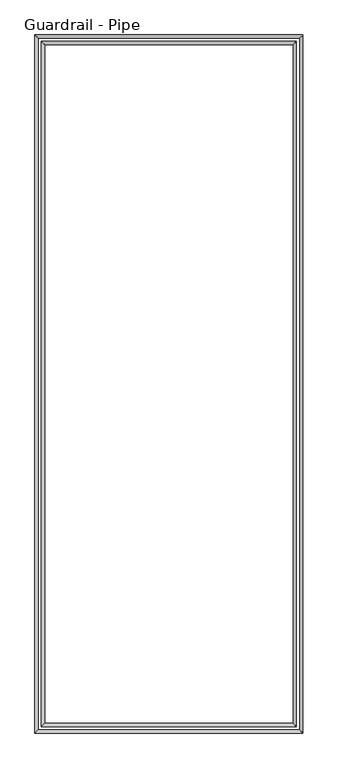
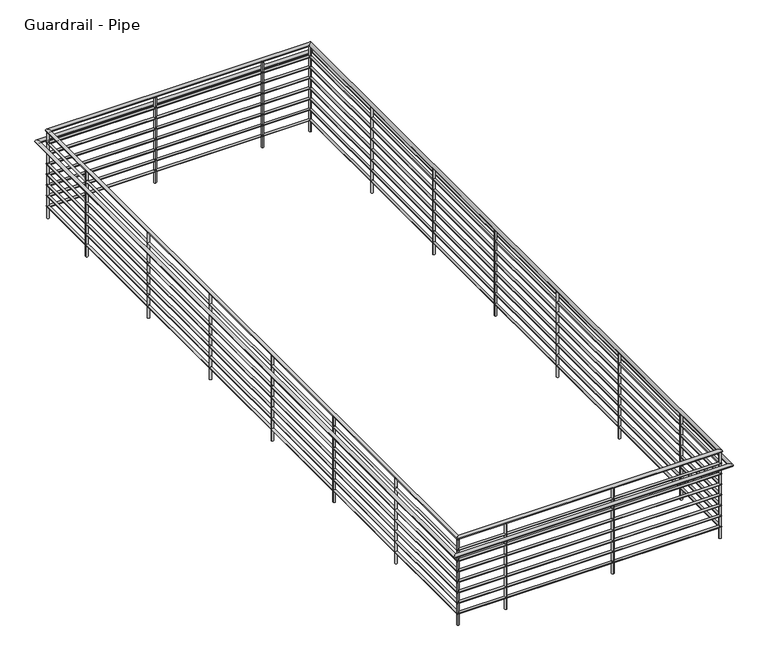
"""IFC4 building model written with IfcOpenShell, lengths in millimetres: railing geometry, Guardrail - Pipe."""

from ifc_helpers import new_model, si_unit, point, frame, frame_2d, origin, place, context, project, spatial, circle_curve, ellipse_curve, trimmed, segment, composite_curve, outline, extrude, source, transform, mapped, element, save
from ifc_brep_helpers import cylinder_surface, advanced_brep


def guardrail_pipe_a18c1e3b(model_context):
    return source(origin(), model_context, "Body", "SolidModel", [
        advanced_brep(
        [(10994.5813551, 40890.75, 8362.95), (10956.4813551, 40928.85, 8362.95), (13977.3813552, 40928.85, 8362.95), (13939.2813552, 40890.75, 8362.95), (13977.3813552, 32813.55, 8362.95), (13939.2813552, 32851.65, 8362.95), (10956.4813551, 32813.55, 8362.95), (10994.5813551, 32851.65, 8362.95)],
        [
            (0, 1, ellipse_curve(frame((10975.5313551, 40909.8, 8362.95), z_axis=(0.7071067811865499, 0.7071067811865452, 0.0), x_axis=(-0.707106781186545, 0.70710678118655, 0.0)), 26.9407684, 19.05)),
            (1, 2),
            (2, 3, ellipse_curve(frame((13958.3313552, 40909.8, 8362.95), z_axis=(-0.7071067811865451, 0.7071067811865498, 0.0), x_axis=(-0.70710678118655, -0.707106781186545, 0.0)), 26.9407684, 19.05)),
            (3, 0),
            (1, 0, ellipse_curve(frame((10975.5313551, 40909.8, 8362.95), z_axis=(0.7071067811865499, 0.7071067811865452, 0.0), x_axis=(-0.707106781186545, 0.70710678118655, 0.0)), 26.9407684, 19.05)),
            (3, 2, ellipse_curve(frame((13958.3313552, 40909.8, 8362.95), z_axis=(-0.7071067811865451, 0.7071067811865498, 0.0), x_axis=(-0.70710678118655, -0.707106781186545, 0.0)), 26.9407684, 19.05)),
            (2, 4),
            (4, 5, ellipse_curve(frame((13958.3313552, 32832.6, 8362.95), z_axis=(0.7071067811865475, 0.7071067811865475, 0.0), x_axis=(-0.7071067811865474, 0.7071067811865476, 0.0)), 26.9407684, 19.05)),
            (5, 3),
            (5, 4, ellipse_curve(frame((13958.3313552, 32832.6, 8362.95), z_axis=(0.7071067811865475, 0.7071067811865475, 0.0), x_axis=(-0.7071067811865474, 0.7071067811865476, 0.0)), 26.9407684, 19.05)),
            (4, 6),
            (6, 7, ellipse_curve(frame((10975.5313551, 32832.6, 8362.95), z_axis=(0.7071067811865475, -0.7071067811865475, 0.0), x_axis=(0.7071067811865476, 0.7071067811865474, 0.0)), 26.9407684, 19.05)),
            (7, 5),
            (7, 6, ellipse_curve(frame((10975.5313551, 32832.6, 8362.95), z_axis=(0.7071067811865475, -0.7071067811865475, 0.0), x_axis=(0.7071067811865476, 0.7071067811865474, 0.0)), 26.9407684, 19.05)),
            (6, 1),
            (0, 7),
        ],
        [
            cylinder_surface(frame((10975.5313551, 40909.8, 8362.95), z_axis=(-1.0, 0.0, 0.0), x_axis=(0.0, -1.0, 0.0)), 19.05),
            cylinder_surface(frame((13958.3313552, 40909.8, 8362.95), z_axis=(0.0, 1.0, 0.0), x_axis=(-1.0, 0.0, 0.0)), 19.05),
            cylinder_surface(frame((13958.3313552, 32832.6, 8362.95), z_axis=(1.0, 0.0, 0.0), x_axis=(0.0, 1.0, 0.0)), 19.05),
            cylinder_surface(frame((10975.5313551, 32832.6, 8362.95), z_axis=(0.0, -1.0, 0.0), x_axis=(1.0, 0.0, 0.0)), 19.05),
        ],
        [
            (0, [[1, 2, 3, 4]]),
            (0, [[5, -4, 6, -2]]),
            (1, [[-3, 7, 8, 9]]),
            (1, [[-6, -9, 10, -7]]),
            (2, [[-8, 11, 12, 13]]),
            (2, [[-10, -13, 14, -11]]),
            (3, [[-12, 15, -1, 16]]),
            (3, [[-14, -16, -5, -15]]),
        ],
    ),
        advanced_brep(
        [(10988.2313551, 40897.1, 8216.9), (10962.8313551, 40922.5, 8216.9), (13971.0313552, 40922.5, 8216.9), (13945.6313552, 40897.1, 8216.9), (13971.0313552, 32819.9, 8216.9), (13945.6313552, 32845.3, 8216.9), (10962.8313551, 32819.9, 8216.9), (10988.2313551, 32845.3, 8216.9)],
        [
            (0, 1, ellipse_curve(frame((10975.5313551, 40909.8, 8216.9), z_axis=(0.7071067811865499, 0.7071067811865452, 0.0), x_axis=(-0.707106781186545, 0.70710678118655, 0.0)), 17.9605122, 12.7)),
            (1, 2),
            (2, 3, ellipse_curve(frame((13958.3313552, 40909.8, 8216.9), z_axis=(-0.7071067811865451, 0.7071067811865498, 0.0), x_axis=(-0.70710678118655, -0.707106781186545, 0.0)), 17.9605122, 12.7)),
            (3, 0),
            (1, 0, ellipse_curve(frame((10975.5313551, 40909.8, 8216.9), z_axis=(0.7071067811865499, 0.7071067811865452, 0.0), x_axis=(-0.707106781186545, 0.70710678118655, 0.0)), 17.9605122, 12.7)),
            (3, 2, ellipse_curve(frame((13958.3313552, 40909.8, 8216.9), z_axis=(-0.7071067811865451, 0.7071067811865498, 0.0), x_axis=(-0.70710678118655, -0.707106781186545, 0.0)), 17.9605122, 12.7)),
            (2, 4),
            (4, 5, ellipse_curve(frame((13958.3313552, 32832.6, 8216.9), z_axis=(0.7071067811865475, 0.7071067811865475, 0.0), x_axis=(-0.7071067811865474, 0.7071067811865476, 0.0)), 17.9605122, 12.7)),
            (5, 3),
            (5, 4, ellipse_curve(frame((13958.3313552, 32832.6, 8216.9), z_axis=(0.7071067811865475, 0.7071067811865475, 0.0), x_axis=(-0.7071067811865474, 0.7071067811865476, 0.0)), 17.9605122, 12.7)),
            (4, 6),
            (6, 7, ellipse_curve(frame((10975.5313551, 32832.6, 8216.9), z_axis=(0.7071067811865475, -0.7071067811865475, 0.0), x_axis=(0.7071067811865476, 0.7071067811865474, 0.0)), 17.9605122, 12.7)),
            (7, 5),
            (7, 6, ellipse_curve(frame((10975.5313551, 32832.6, 8216.9), z_axis=(0.7071067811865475, -0.7071067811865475, 0.0), x_axis=(0.7071067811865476, 0.7071067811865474, 0.0)), 17.9605122, 12.7)),
            (6, 1),
            (0, 7),
        ],
        [
            cylinder_surface(frame((10975.5313551, 40909.8, 8216.9), z_axis=(-1.0, 0.0, 0.0), x_axis=(0.0, -1.0, 0.0)), 12.7),
            cylinder_surface(frame((13958.3313552, 40909.8, 8216.9), z_axis=(0.0, 1.0, 0.0), x_axis=(-1.0, 0.0, 0.0)), 12.7),
            cylinder_surface(frame((13958.3313552, 32832.6, 8216.9), z_axis=(1.0, 0.0, 0.0), x_axis=(0.0, 1.0, 0.0)), 12.7),
            cylinder_surface(frame((10975.5313551, 32832.6, 8216.9), z_axis=(0.0, -1.0, 0.0), x_axis=(1.0, 0.0, 0.0)), 12.7),
        ],
        [
            (0, [[1, 2, 3, 4]]),
            (0, [[5, -4, 6, -2]]),
            (1, [[-3, 7, 8, 9]]),
            (1, [[-6, -9, 10, -7]]),
            (2, [[-8, 11, 12, 13]]),
            (2, [[-10, -13, 14, -11]]),
            (3, [[-12, 15, -1, 16]]),
            (3, [[-14, -16, -5, -15]]),
        ],
    ),
        advanced_brep(
        [(10918.3813551, 40966.95, 8210.55), (10880.2813551, 41005.05, 8210.55), (14053.5813552, 41005.05, 8210.55), (14015.4813552, 40966.95, 8210.55), (14053.5813552, 32737.35, 8210.55), (14015.4813552, 32775.45, 8210.55), (10880.2813551, 32737.35, 8210.55), (10918.3813551, 32775.45, 8210.55)],
        [
            (0, 1, ellipse_curve(frame((10899.3313551, 40986.0, 8210.55), z_axis=(0.7071067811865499, 0.7071067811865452, 0.0), x_axis=(-0.707106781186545, 0.70710678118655, 0.0)), 26.9407684, 19.05)),
            (1, 2),
            (2, 3, ellipse_curve(frame((14034.5313552, 40986.0, 8210.55), z_axis=(-0.7071067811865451, 0.7071067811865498, 0.0), x_axis=(-0.70710678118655, -0.707106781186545, 0.0)), 26.9407684, 19.05)),
            (3, 0),
            (1, 0, ellipse_curve(frame((10899.3313551, 40986.0, 8210.55), z_axis=(0.7071067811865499, 0.7071067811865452, 0.0), x_axis=(-0.707106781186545, 0.70710678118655, 0.0)), 26.9407684, 19.05)),
            (3, 2, ellipse_curve(frame((14034.5313552, 40986.0, 8210.55), z_axis=(-0.7071067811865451, 0.7071067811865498, 0.0), x_axis=(-0.70710678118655, -0.707106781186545, 0.0)), 26.9407684, 19.05)),
            (2, 4),
            (4, 5, ellipse_curve(frame((14034.5313552, 32756.4, 8210.55), z_axis=(0.7071067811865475, 0.7071067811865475, 0.0), x_axis=(-0.7071067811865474, 0.7071067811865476, 0.0)), 26.9407684, 19.05)),
            (5, 3),
            (5, 4, ellipse_curve(frame((14034.5313552, 32756.4, 8210.55), z_axis=(0.7071067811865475, 0.7071067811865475, 0.0), x_axis=(-0.7071067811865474, 0.7071067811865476, 0.0)), 26.9407684, 19.05)),
            (4, 6),
            (6, 7, ellipse_curve(frame((10899.3313551, 32756.4, 8210.55), z_axis=(0.7071067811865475, -0.7071067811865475, 0.0), x_axis=(0.7071067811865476, 0.7071067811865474, 0.0)), 26.9407684, 19.05)),
            (7, 5),
            (7, 6, ellipse_curve(frame((10899.3313551, 32756.4, 8210.55), z_axis=(0.7071067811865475, -0.7071067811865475, 0.0), x_axis=(0.7071067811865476, 0.7071067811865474, 0.0)), 26.9407684, 19.05)),
            (6, 1),
            (0, 7),
        ],
        [
            cylinder_surface(frame((10899.3313551, 40986.0, 8210.55), z_axis=(-1.0, 0.0, 0.0), x_axis=(0.0, -1.0, 0.0)), 19.05),
            cylinder_surface(frame((14034.5313552, 40986.0, 8210.55), z_axis=(0.0, 1.0, 0.0), x_axis=(-1.0, 0.0, 0.0)), 19.05),
            cylinder_surface(frame((14034.5313552, 32756.4, 8210.55), z_axis=(1.0, 0.0, 0.0), x_axis=(0.0, 1.0, 0.0)), 19.05),
            cylinder_surface(frame((10899.3313551, 32756.4, 8210.55), z_axis=(0.0, -1.0, 0.0), x_axis=(1.0, 0.0, 0.0)), 19.05),
        ],
        [
            (0, [[1, 2, 3, 4]]),
            (0, [[5, -4, 6, -2]]),
            (1, [[-3, 7, 8, 9]]),
            (1, [[-6, -9, 10, -7]]),
            (2, [[-8, 11, 12, 13]]),
            (2, [[-10, -13, 14, -11]]),
            (3, [[-12, 15, -1, 16]]),
            (3, [[-14, -16, -5, -15]]),
        ],
    ),
        advanced_brep(
        [(10988.2313551, 40897.1, 8089.9), (10962.8313551, 40922.5, 8089.9), (13971.0313552, 40922.5, 8089.9), (13945.6313552, 40897.1, 8089.9), (13971.0313552, 32819.9, 8089.9), (13945.6313552, 32845.3, 8089.9), (10962.8313551, 32819.9, 8089.9), (10988.2313551, 32845.3, 8089.9)],
        [
            (0, 1, ellipse_curve(frame((10975.5313551, 40909.8, 8089.9), z_axis=(0.7071067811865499, 0.7071067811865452, 0.0), x_axis=(-0.707106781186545, 0.70710678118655, 0.0)), 17.9605122, 12.7)),
            (1, 2),
            (2, 3, ellipse_curve(frame((13958.3313552, 40909.8, 8089.9), z_axis=(-0.7071067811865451, 0.7071067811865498, 0.0), x_axis=(-0.70710678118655, -0.707106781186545, 0.0)), 17.9605122, 12.7)),
            (3, 0),
            (1, 0, ellipse_curve(frame((10975.5313551, 40909.8, 8089.9), z_axis=(0.7071067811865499, 0.7071067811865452, 0.0), x_axis=(-0.707106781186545, 0.70710678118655, 0.0)), 17.9605122, 12.7)),
            (3, 2, ellipse_curve(frame((13958.3313552, 40909.8, 8089.9), z_axis=(-0.7071067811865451, 0.7071067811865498, 0.0), x_axis=(-0.70710678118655, -0.707106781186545, 0.0)), 17.9605122, 12.7)),
            (2, 4),
            (4, 5, ellipse_curve(frame((13958.3313552, 32832.6, 8089.9), z_axis=(0.7071067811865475, 0.7071067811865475, 0.0), x_axis=(-0.7071067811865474, 0.7071067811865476, 0.0)), 17.9605122, 12.7)),
            (5, 3),
            (5, 4, ellipse_curve(frame((13958.3313552, 32832.6, 8089.9), z_axis=(0.7071067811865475, 0.7071067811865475, 0.0), x_axis=(-0.7071067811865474, 0.7071067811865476, 0.0)), 17.9605122, 12.7)),
            (4, 6),
            (6, 7, ellipse_curve(frame((10975.5313551, 32832.6, 8089.9), z_axis=(0.7071067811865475, -0.7071067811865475, 0.0), x_axis=(0.7071067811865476, 0.7071067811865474, 0.0)), 17.9605122, 12.7)),
            (7, 5),
            (7, 6, ellipse_curve(frame((10975.5313551, 32832.6, 8089.9), z_axis=(0.7071067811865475, -0.7071067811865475, 0.0), x_axis=(0.7071067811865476, 0.7071067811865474, 0.0)), 17.9605122, 12.7)),
            (6, 1),
            (0, 7),
        ],
        [
            cylinder_surface(frame((10975.5313551, 40909.8, 8089.9), z_axis=(-1.0, 0.0, 0.0), x_axis=(0.0, -1.0, 0.0)), 12.7),
            cylinder_surface(frame((13958.3313552, 40909.8, 8089.9), z_axis=(0.0, 1.0, 0.0), x_axis=(-1.0, 0.0, 0.0)), 12.7),
            cylinder_surface(frame((13958.3313552, 32832.6, 8089.9), z_axis=(1.0, 0.0, 0.0), x_axis=(0.0, 1.0, 0.0)), 12.7),
            cylinder_surface(frame((10975.5313551, 32832.6, 8089.9), z_axis=(0.0, -1.0, 0.0), x_axis=(1.0, 0.0, 0.0)), 12.7),
        ],
        [
            (0, [[1, 2, 3, 4]]),
            (0, [[5, -4, 6, -2]]),
            (1, [[-3, 7, 8, 9]]),
            (1, [[-6, -9, 10, -7]]),
            (2, [[-8, 11, 12, 13]]),
            (2, [[-10, -13, 14, -11]]),
            (3, [[-12, 15, -1, 16]]),
            (3, [[-14, -16, -5, -15]]),
        ],
    ),
        advanced_brep(
        [(10988.2313551, 40897.1, 7962.9), (10962.8313551, 40922.5, 7962.9), (13971.0313552, 40922.5, 7962.9), (13945.6313552, 40897.1, 7962.9), (13971.0313552, 32819.9, 7962.9), (13945.6313552, 32845.3, 7962.9), (10962.8313551, 32819.9, 7962.9), (10988.2313551, 32845.3, 7962.9)],
        [
            (0, 1, ellipse_curve(frame((10975.5313551, 40909.8, 7962.9), z_axis=(0.7071067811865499, 0.7071067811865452, 0.0), x_axis=(-0.707106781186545, 0.70710678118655, 0.0)), 17.9605122, 12.7)),
            (1, 2),
            (2, 3, ellipse_curve(frame((13958.3313552, 40909.8, 7962.9), z_axis=(-0.7071067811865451, 0.7071067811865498, 0.0), x_axis=(-0.70710678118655, -0.707106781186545, 0.0)), 17.9605122, 12.7)),
            (3, 0),
            (1, 0, ellipse_curve(frame((10975.5313551, 40909.8, 7962.9), z_axis=(0.7071067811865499, 0.7071067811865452, 0.0), x_axis=(-0.707106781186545, 0.70710678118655, 0.0)), 17.9605122, 12.7)),
            (3, 2, ellipse_curve(frame((13958.3313552, 40909.8, 7962.9), z_axis=(-0.7071067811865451, 0.7071067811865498, 0.0), x_axis=(-0.70710678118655, -0.707106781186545, 0.0)), 17.9605122, 12.7)),
            (2, 4),
            (4, 5, ellipse_curve(frame((13958.3313552, 32832.6, 7962.9), z_axis=(0.7071067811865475, 0.7071067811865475, 0.0), x_axis=(-0.7071067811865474, 0.7071067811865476, 0.0)), 17.9605122, 12.7)),
            (5, 3),
            (5, 4, ellipse_curve(frame((13958.3313552, 32832.6, 7962.9), z_axis=(0.7071067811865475, 0.7071067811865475, 0.0), x_axis=(-0.7071067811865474, 0.7071067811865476, 0.0)), 17.9605122, 12.7)),
            (4, 6),
            (6, 7, ellipse_curve(frame((10975.5313551, 32832.6, 7962.9), z_axis=(0.7071067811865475, -0.7071067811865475, 0.0), x_axis=(0.7071067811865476, 0.7071067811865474, 0.0)), 17.9605122, 12.7)),
            (7, 5),
            (7, 6, ellipse_curve(frame((10975.5313551, 32832.6, 7962.9), z_axis=(0.7071067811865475, -0.7071067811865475, 0.0), x_axis=(0.7071067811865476, 0.7071067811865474, 0.0)), 17.9605122, 12.7)),
            (6, 1),
            (0, 7),
        ],
        [
            cylinder_surface(frame((10975.5313551, 40909.8, 7962.9), z_axis=(-1.0, 0.0, 0.0), x_axis=(0.0, -1.0, 0.0)), 12.7),
            cylinder_surface(frame((13958.3313552, 40909.8, 7962.9), z_axis=(0.0, 1.0, 0.0), x_axis=(-1.0, 0.0, 0.0)), 12.7),
            cylinder_surface(frame((13958.3313552, 32832.6, 7962.9), z_axis=(1.0, 0.0, 0.0), x_axis=(0.0, 1.0, 0.0)), 12.7),
            cylinder_surface(frame((10975.5313551, 32832.6, 7962.9), z_axis=(0.0, -1.0, 0.0), x_axis=(1.0, 0.0, 0.0)), 12.7),
        ],
        [
            (0, [[1, 2, 3, 4]]),
            (0, [[5, -4, 6, -2]]),
            (1, [[-3, 7, 8, 9]]),
            (1, [[-6, -9, 10, -7]]),
            (2, [[-8, 11, 12, 13]]),
            (2, [[-10, -13, 14, -11]]),
            (3, [[-12, 15, -1, 16]]),
            (3, [[-14, -16, -5, -15]]),
        ],
    ),
        advanced_brep(
        [(10988.2313551, 40897.1, 7835.9), (10962.8313551, 40922.5, 7835.9), (13971.0313552, 40922.5, 7835.9), (13945.6313552, 40897.1, 7835.9), (13971.0313552, 32819.9, 7835.9), (13945.6313552, 32845.3, 7835.9), (10962.8313551, 32819.9, 7835.9), (10988.2313551, 32845.3, 7835.9)],
        [
            (0, 1, ellipse_curve(frame((10975.5313551, 40909.8, 7835.9), z_axis=(0.7071067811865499, 0.7071067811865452, 0.0), x_axis=(-0.707106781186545, 0.70710678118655, 0.0)), 17.9605122, 12.7)),
            (1, 2),
            (2, 3, ellipse_curve(frame((13958.3313552, 40909.8, 7835.9), z_axis=(-0.7071067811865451, 0.7071067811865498, 0.0), x_axis=(-0.70710678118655, -0.707106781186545, 0.0)), 17.9605122, 12.7)),
            (3, 0),
            (1, 0, ellipse_curve(frame((10975.5313551, 40909.8, 7835.9), z_axis=(0.7071067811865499, 0.7071067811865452, 0.0), x_axis=(-0.707106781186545, 0.70710678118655, 0.0)), 17.9605122, 12.7)),
            (3, 2, ellipse_curve(frame((13958.3313552, 40909.8, 7835.9), z_axis=(-0.7071067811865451, 0.7071067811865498, 0.0), x_axis=(-0.70710678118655, -0.707106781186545, 0.0)), 17.9605122, 12.7)),
            (2, 4),
            (4, 5, ellipse_curve(frame((13958.3313552, 32832.6, 7835.9), z_axis=(0.7071067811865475, 0.7071067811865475, 0.0), x_axis=(-0.7071067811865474, 0.7071067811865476, 0.0)), 17.9605122, 12.7)),
            (5, 3),
            (5, 4, ellipse_curve(frame((13958.3313552, 32832.6, 7835.9), z_axis=(0.7071067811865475, 0.7071067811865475, 0.0), x_axis=(-0.7071067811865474, 0.7071067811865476, 0.0)), 17.9605122, 12.7)),
            (4, 6),
            (6, 7, ellipse_curve(frame((10975.5313551, 32832.6, 7835.9), z_axis=(0.7071067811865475, -0.7071067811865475, 0.0), x_axis=(0.7071067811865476, 0.7071067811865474, 0.0)), 17.9605122, 12.7)),
            (7, 5),
            (7, 6, ellipse_curve(frame((10975.5313551, 32832.6, 7835.9), z_axis=(0.7071067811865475, -0.7071067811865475, 0.0), x_axis=(0.7071067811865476, 0.7071067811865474, 0.0)), 17.9605122, 12.7)),
            (6, 1),
            (0, 7),
        ],
        [
            cylinder_surface(frame((10975.5313551, 40909.8, 7835.9), z_axis=(-1.0, 0.0, 0.0), x_axis=(0.0, -1.0, 0.0)), 12.7),
            cylinder_surface(frame((13958.3313552, 40909.8, 7835.9), z_axis=(0.0, 1.0, 0.0), x_axis=(-1.0, 0.0, 0.0)), 12.7),
            cylinder_surface(frame((13958.3313552, 32832.6, 7835.9), z_axis=(1.0, 0.0, 0.0), x_axis=(0.0, 1.0, 0.0)), 12.7),
            cylinder_surface(frame((10975.5313551, 32832.6, 7835.9), z_axis=(0.0, -1.0, 0.0), x_axis=(1.0, 0.0, 0.0)), 12.7),
        ],
        [
            (0, [[1, 2, 3, 4]]),
            (0, [[5, -4, 6, -2]]),
            (1, [[-3, 7, 8, 9]]),
            (1, [[-6, -9, 10, -7]]),
            (2, [[-8, 11, 12, 13]]),
            (2, [[-10, -13, 14, -11]]),
            (3, [[-12, 15, -1, 16]]),
            (3, [[-14, -16, -5, -15]]),
        ],
    ),
        advanced_brep(
        [(10988.2313551, 40897.1, 7708.9), (10962.8313551, 40922.5, 7708.9), (13971.0313552, 40922.5, 7708.9), (13945.6313552, 40897.1, 7708.9), (13971.0313552, 32819.9, 7708.9), (13945.6313552, 32845.3, 7708.9), (10962.8313551, 32819.9, 7708.9), (10988.2313551, 32845.3, 7708.9)],
        [
            (0, 1, ellipse_curve(frame((10975.5313551, 40909.8, 7708.9), z_axis=(0.7071067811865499, 0.7071067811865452, 0.0), x_axis=(-0.707106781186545, 0.70710678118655, 0.0)), 17.9605122, 12.7)),
            (1, 2),
            (2, 3, ellipse_curve(frame((13958.3313552, 40909.8, 7708.9), z_axis=(-0.7071067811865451, 0.7071067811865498, 0.0), x_axis=(-0.70710678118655, -0.707106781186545, 0.0)), 17.9605122, 12.7)),
            (3, 0),
            (1, 0, ellipse_curve(frame((10975.5313551, 40909.8, 7708.9), z_axis=(0.7071067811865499, 0.7071067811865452, 0.0), x_axis=(-0.707106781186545, 0.70710678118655, 0.0)), 17.9605122, 12.7)),
            (3, 2, ellipse_curve(frame((13958.3313552, 40909.8, 7708.9), z_axis=(-0.7071067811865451, 0.7071067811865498, 0.0), x_axis=(-0.70710678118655, -0.707106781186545, 0.0)), 17.9605122, 12.7)),
            (2, 4),
            (4, 5, ellipse_curve(frame((13958.3313552, 32832.6, 7708.9), z_axis=(0.7071067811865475, 0.7071067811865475, 0.0), x_axis=(-0.7071067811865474, 0.7071067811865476, 0.0)), 17.9605122, 12.7)),
            (5, 3),
            (5, 4, ellipse_curve(frame((13958.3313552, 32832.6, 7708.9), z_axis=(0.7071067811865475, 0.7071067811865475, 0.0), x_axis=(-0.7071067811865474, 0.7071067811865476, 0.0)), 17.9605122, 12.7)),
            (4, 6),
            (6, 7, ellipse_curve(frame((10975.5313551, 32832.6, 7708.9), z_axis=(0.7071067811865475, -0.7071067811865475, 0.0), x_axis=(0.7071067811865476, 0.7071067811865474, 0.0)), 17.9605122, 12.7)),
            (7, 5),
            (7, 6, ellipse_curve(frame((10975.5313551, 32832.6, 7708.9), z_axis=(0.7071067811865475, -0.7071067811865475, 0.0), x_axis=(0.7071067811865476, 0.7071067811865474, 0.0)), 17.9605122, 12.7)),
            (6, 1),
            (0, 7),
        ],
        [
            cylinder_surface(frame((10975.5313551, 40909.8, 7708.9), z_axis=(-1.0, 0.0, 0.0), x_axis=(0.0, -1.0, 0.0)), 12.7),
            cylinder_surface(frame((13958.3313552, 40909.8, 7708.9), z_axis=(0.0, 1.0, 0.0), x_axis=(-1.0, 0.0, 0.0)), 12.7),
            cylinder_surface(frame((13958.3313552, 32832.6, 7708.9), z_axis=(1.0, 0.0, 0.0), x_axis=(0.0, 1.0, 0.0)), 12.7),
            cylinder_surface(frame((10975.5313551, 32832.6, 7708.9), z_axis=(0.0, -1.0, 0.0), x_axis=(1.0, 0.0, 0.0)), 12.7),
        ],
        [
            (0, [[1, 2, 3, 4]]),
            (0, [[5, -4, 6, -2]]),
            (1, [[-3, 7, 8, 9]]),
            (1, [[-6, -9, 10, -7]]),
            (2, [[-8, 11, 12, 13]]),
            (2, [[-10, -13, 14, -11]]),
            (3, [[-12, 15, -1, 16]]),
            (3, [[-14, -16, -5, -15]]),
        ],
    ),
        advanced_brep(
        [(10988.2313551, 40897.1, 7581.9), (10962.8313551, 40922.5, 7581.9), (13971.0313552, 40922.5, 7581.9), (13945.6313552, 40897.1, 7581.9), (13971.0313552, 32819.9, 7581.9), (13945.6313552, 32845.3, 7581.9), (10962.8313551, 32819.9, 7581.9), (10988.2313551, 32845.3, 7581.9)],
        [
            (0, 1, ellipse_curve(frame((10975.5313551, 40909.8, 7581.9), z_axis=(0.7071067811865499, 0.7071067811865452, 0.0), x_axis=(-0.707106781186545, 0.70710678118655, 0.0)), 17.9605122, 12.7)),
            (1, 2),
            (2, 3, ellipse_curve(frame((13958.3313552, 40909.8, 7581.9), z_axis=(-0.7071067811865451, 0.7071067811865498, 0.0), x_axis=(-0.70710678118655, -0.707106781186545, 0.0)), 17.9605122, 12.7)),
            (3, 0),
            (1, 0, ellipse_curve(frame((10975.5313551, 40909.8, 7581.9), z_axis=(0.7071067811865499, 0.7071067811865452, 0.0), x_axis=(-0.707106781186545, 0.70710678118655, 0.0)), 17.9605122, 12.7)),
            (3, 2, ellipse_curve(frame((13958.3313552, 40909.8, 7581.9), z_axis=(-0.7071067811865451, 0.7071067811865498, 0.0), x_axis=(-0.70710678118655, -0.707106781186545, 0.0)), 17.9605122, 12.7)),
            (2, 4),
            (4, 5, ellipse_curve(frame((13958.3313552, 32832.6, 7581.9), z_axis=(0.7071067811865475, 0.7071067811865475, 0.0), x_axis=(-0.7071067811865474, 0.7071067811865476, 0.0)), 17.9605122, 12.7)),
            (5, 3),
            (5, 4, ellipse_curve(frame((13958.3313552, 32832.6, 7581.9), z_axis=(0.7071067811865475, 0.7071067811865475, 0.0), x_axis=(-0.7071067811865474, 0.7071067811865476, 0.0)), 17.9605122, 12.7)),
            (4, 6),
            (6, 7, ellipse_curve(frame((10975.5313551, 32832.6, 7581.9), z_axis=(0.7071067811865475, -0.7071067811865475, 0.0), x_axis=(0.7071067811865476, 0.7071067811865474, 0.0)), 17.9605122, 12.7)),
            (7, 5),
            (7, 6, ellipse_curve(frame((10975.5313551, 32832.6, 7581.9), z_axis=(0.7071067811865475, -0.7071067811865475, 0.0), x_axis=(0.7071067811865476, 0.7071067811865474, 0.0)), 17.9605122, 12.7)),
            (6, 1),
            (0, 7),
        ],
        [
            cylinder_surface(frame((10975.5313551, 40909.8, 7581.9), z_axis=(-1.0, 0.0, 0.0), x_axis=(0.0, -1.0, 0.0)), 12.7),
            cylinder_surface(frame((13958.3313552, 40909.8, 7581.9), z_axis=(0.0, 1.0, 0.0), x_axis=(-1.0, 0.0, 0.0)), 12.7),
            cylinder_surface(frame((13958.3313552, 32832.6, 7581.9), z_axis=(1.0, 0.0, 0.0), x_axis=(0.0, 1.0, 0.0)), 12.7),
            cylinder_surface(frame((10975.5313551, 32832.6, 7581.9), z_axis=(0.0, -1.0, 0.0), x_axis=(1.0, 0.0, 0.0)), 12.7),
        ],
        [
            (0, [[1, 2, 3, 4]]),
            (0, [[5, -4, 6, -2]]),
            (1, [[-3, 7, 8, 9]]),
            (1, [[-6, -9, 10, -7]]),
            (2, [[-8, 11, 12, 13]]),
            (2, [[-10, -13, 14, -11]]),
            (3, [[-12, 15, -1, 16]]),
            (3, [[-14, -16, -5, -15]]),
        ],
    ),
        advanced_brep(
        [(10988.2313551, 40897.1, 7454.9), (10962.8313551, 40922.5, 7454.9), (13971.0313552, 40922.5, 7454.9), (13945.6313552, 40897.1, 7454.9), (13971.0313552, 32819.9, 7454.9), (13945.6313552, 32845.3, 7454.9), (10962.8313551, 32819.9, 7454.9), (10988.2313551, 32845.3, 7454.9)],
        [
            (0, 1, ellipse_curve(frame((10975.5313551, 40909.8, 7454.9), z_axis=(0.7071067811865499, 0.7071067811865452, 0.0), x_axis=(-0.707106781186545, 0.70710678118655, 0.0)), 17.9605122, 12.7)),
            (1, 2),
            (2, 3, ellipse_curve(frame((13958.3313552, 40909.8, 7454.9), z_axis=(-0.7071067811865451, 0.7071067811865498, 0.0), x_axis=(-0.70710678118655, -0.707106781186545, 0.0)), 17.9605122, 12.7)),
            (3, 0),
            (1, 0, ellipse_curve(frame((10975.5313551, 40909.8, 7454.9), z_axis=(0.7071067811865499, 0.7071067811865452, 0.0), x_axis=(-0.707106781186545, 0.70710678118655, 0.0)), 17.9605122, 12.7)),
            (3, 2, ellipse_curve(frame((13958.3313552, 40909.8, 7454.9), z_axis=(-0.7071067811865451, 0.7071067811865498, 0.0), x_axis=(-0.70710678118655, -0.707106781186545, 0.0)), 17.9605122, 12.7)),
            (2, 4),
            (4, 5, ellipse_curve(frame((13958.3313552, 32832.6, 7454.9), z_axis=(0.7071067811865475, 0.7071067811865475, 0.0), x_axis=(-0.7071067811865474, 0.7071067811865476, 0.0)), 17.9605122, 12.7)),
            (5, 3),
            (5, 4, ellipse_curve(frame((13958.3313552, 32832.6, 7454.9), z_axis=(0.7071067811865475, 0.7071067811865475, 0.0), x_axis=(-0.7071067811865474, 0.7071067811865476, 0.0)), 17.9605122, 12.7)),
            (4, 6),
            (6, 7, ellipse_curve(frame((10975.5313551, 32832.6, 7454.9), z_axis=(0.7071067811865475, -0.7071067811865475, 0.0), x_axis=(0.7071067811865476, 0.7071067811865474, 0.0)), 17.9605122, 12.7)),
            (7, 5),
            (7, 6, ellipse_curve(frame((10975.5313551, 32832.6, 7454.9), z_axis=(0.7071067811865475, -0.7071067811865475, 0.0), x_axis=(0.7071067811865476, 0.7071067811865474, 0.0)), 17.9605122, 12.7)),
            (6, 1),
            (0, 7),
        ],
        [
            cylinder_surface(frame((10975.5313551, 40909.8, 7454.9), z_axis=(-1.0, 0.0, 0.0), x_axis=(0.0, -1.0, 0.0)), 12.7),
            cylinder_surface(frame((13958.3313552, 40909.8, 7454.9), z_axis=(0.0, 1.0, 0.0), x_axis=(-1.0, 0.0, 0.0)), 12.7),
            cylinder_surface(frame((13958.3313552, 32832.6, 7454.9), z_axis=(1.0, 0.0, 0.0), x_axis=(0.0, 1.0, 0.0)), 12.7),
            cylinder_surface(frame((10975.5313551, 32832.6, 7454.9), z_axis=(0.0, -1.0, 0.0), x_axis=(1.0, 0.0, 0.0)), 12.7),
        ],
        [
            (0, [[1, 2, 3, 4]]),
            (0, [[5, -4, 6, -2]]),
            (1, [[-3, 7, 8, 9]]),
            (1, [[-6, -9, 10, -7]]),
            (2, [[-8, 11, 12, 13]]),
            (2, [[-10, -13, 14, -11]]),
            (3, [[-12, 15, -1, 16]]),
            (3, [[-14, -16, -5, -15]]),
        ],
    ),
        extrude(outline(composite_curve([segment(trimmed(circle_curve(frame_2d((10975.5313551, 40147.8)), 12.7), [point((10962.8313551, 40147.8))], [point((10988.2313551, 40147.8))], False, "CARTESIAN"), True, "CONTINUOUS"), segment(trimmed(circle_curve(frame_2d((10975.5313551, 40147.8)), 12.7), [point((10988.2313551, 40147.8))], [point((10962.8313551, 40147.8))], False, "CARTESIAN"), True, "CONTINUOUS")], self_intersect=False)), frame((0.0, 0.0, 7315.2), z_axis=(0.0, 0.0, 1.0), x_axis=(1.0, 0.0, 0.0)), (0.0, 0.0, 1.0), 1028.7),
        extrude(outline(composite_curve([segment(trimmed(circle_curve(frame_2d((10975.5313551, 38928.6)), 12.7), [point((10962.8313551, 38928.6))], [point((10988.2313551, 38928.6))], False, "CARTESIAN"), True, "CONTINUOUS"), segment(trimmed(circle_curve(frame_2d((10975.5313551, 38928.6)), 12.7), [point((10988.2313551, 38928.6))], [point((10962.8313551, 38928.6))], False, "CARTESIAN"), True, "CONTINUOUS")], self_intersect=False)), frame((0.0, 0.0, 7315.2), z_axis=(0.0, 0.0, 1.0), x_axis=(1.0, 0.0, 0.0)), (0.0, 0.0, 1.0), 1028.7),
        extrude(outline(composite_curve([segment(trimmed(circle_curve(frame_2d((10975.5313551, 37709.4)), 12.7), [point((10962.8313551, 37709.4))], [point((10988.2313551, 37709.4))], False, "CARTESIAN"), True, "CONTINUOUS"), segment(trimmed(circle_curve(frame_2d((10975.5313551, 37709.4)), 12.7), [point((10988.2313551, 37709.4))], [point((10962.8313551, 37709.4))], False, "CARTESIAN"), True, "CONTINUOUS")], self_intersect=False)), frame((0.0, 0.0, 7315.2), z_axis=(0.0, 0.0, 1.0), x_axis=(1.0, 0.0, 0.0)), (0.0, 0.0, 1.0), 1028.7),
        extrude(outline(composite_curve([segment(trimmed(circle_curve(frame_2d((10975.5313551, 36490.2)), 12.7), [point((10962.8313551, 36490.2))], [point((10988.2313551, 36490.2))], False, "CARTESIAN"), True, "CONTINUOUS"), segment(trimmed(circle_curve(frame_2d((10975.5313551, 36490.2)), 12.7), [point((10988.2313551, 36490.2))], [point((10962.8313551, 36490.2))], False, "CARTESIAN"), True, "CONTINUOUS")], self_intersect=False)), frame((0.0, 0.0, 7315.2), z_axis=(0.0, 0.0, 1.0), x_axis=(1.0, 0.0, 0.0)), (0.0, 0.0, 1.0), 1028.7),
        extrude(outline(composite_curve([segment(trimmed(circle_curve(frame_2d((10975.5313551, 35271.0)), 12.7), [point((10962.8313551, 35271.0))], [point((10988.2313551, 35271.0))], False, "CARTESIAN"), True, "CONTINUOUS"), segment(trimmed(circle_curve(frame_2d((10975.5313551, 35271.0)), 12.7), [point((10988.2313551, 35271.0))], [point((10962.8313551, 35271.0))], False, "CARTESIAN"), True, "CONTINUOUS")], self_intersect=False)), frame((0.0, 0.0, 7315.2), z_axis=(0.0, 0.0, 1.0), x_axis=(1.0, 0.0, 0.0)), (0.0, 0.0, 1.0), 1028.7),
        extrude(outline(composite_curve([segment(trimmed(circle_curve(frame_2d((10975.5313551, 34051.8)), 12.7), [point((10962.8313551, 34051.8))], [point((10988.2313551, 34051.8))], False, "CARTESIAN"), True, "CONTINUOUS"), segment(trimmed(circle_curve(frame_2d((10975.5313551, 34051.8)), 12.7), [point((10988.2313551, 34051.8))], [point((10962.8313551, 34051.8))], False, "CARTESIAN"), True, "CONTINUOUS")], self_intersect=False)), frame((0.0, 0.0, 7315.2), z_axis=(0.0, 0.0, 1.0), x_axis=(1.0, 0.0, 0.0)), (0.0, 0.0, 1.0), 1028.7),
        extrude(outline(composite_curve([segment(trimmed(circle_curve(frame_2d((11519.9313552, 32832.6)), 12.7), [point((11519.9313552, 32819.9))], [point((11519.9313552, 32845.3))], False, "CARTESIAN"), True, "CONTINUOUS"), segment(trimmed(circle_curve(frame_2d((11519.9313552, 32832.6)), 12.7), [point((11519.9313552, 32845.3))], [point((11519.9313552, 32819.9))], False, "CARTESIAN"), True, "CONTINUOUS")], self_intersect=False)), frame((0.0, 0.0, 7315.2), z_axis=(0.0, 0.0, 1.0), x_axis=(1.0, 0.0, 0.0)), (0.0, 0.0, 1.0), 1028.7),
        extrude(outline(composite_curve([segment(trimmed(circle_curve(frame_2d((12739.1313552, 32832.6)), 12.7), [point((12739.1313552, 32819.9))], [point((12739.1313552, 32845.3))], False, "CARTESIAN"), True, "CONTINUOUS"), segment(trimmed(circle_curve(frame_2d((12739.1313552, 32832.6)), 12.7), [point((12739.1313552, 32845.3))], [point((12739.1313552, 32819.9))], False, "CARTESIAN"), True, "CONTINUOUS")], self_intersect=False)), frame((0.0, 0.0, 7315.2), z_axis=(0.0, 0.0, 1.0), x_axis=(1.0, 0.0, 0.0)), (0.0, 0.0, 1.0), 1028.7),
        extrude(outline(composite_curve([segment(trimmed(circle_curve(frame_2d((13958.3313552, 33594.6)), 12.7), [point((13971.0313552, 33594.6))], [point((13945.6313552, 33594.6))], False, "CARTESIAN"), True, "CONTINUOUS"), segment(trimmed(circle_curve(frame_2d((13958.3313552, 33594.6)), 12.7), [point((13945.6313552, 33594.6))], [point((13971.0313552, 33594.6))], False, "CARTESIAN"), True, "CONTINUOUS")], self_intersect=False)), frame((0.0, 0.0, 7315.2), z_axis=(0.0, 0.0, 1.0), x_axis=(1.0, 0.0, 0.0)), (0.0, 0.0, 1.0), 1028.7),
        extrude(outline(composite_curve([segment(trimmed(circle_curve(frame_2d((13958.3313552, 34813.8)), 12.7), [point((13971.0313552, 34813.8))], [point((13945.6313552, 34813.8))], False, "CARTESIAN"), True, "CONTINUOUS"), segment(trimmed(circle_curve(frame_2d((13958.3313552, 34813.8)), 12.7), [point((13945.6313552, 34813.8))], [point((13971.0313552, 34813.8))], False, "CARTESIAN"), True, "CONTINUOUS")], self_intersect=False)), frame((0.0, 0.0, 7315.2), z_axis=(0.0, 0.0, 1.0), x_axis=(1.0, 0.0, 0.0)), (0.0, 0.0, 1.0), 1028.7),
        extrude(outline(composite_curve([segment(trimmed(circle_curve(frame_2d((13958.3313552, 36033.0)), 12.7), [point((13971.0313552, 36033.0))], [point((13945.6313552, 36033.0))], False, "CARTESIAN"), True, "CONTINUOUS"), segment(trimmed(circle_curve(frame_2d((13958.3313552, 36033.0)), 12.7), [point((13945.6313552, 36033.0))], [point((13971.0313552, 36033.0))], False, "CARTESIAN"), True, "CONTINUOUS")], self_intersect=False)), frame((0.0, 0.0, 7315.2), z_axis=(0.0, 0.0, 1.0), x_axis=(1.0, 0.0, 0.0)), (0.0, 0.0, 1.0), 1028.7),
        extrude(outline(composite_curve([segment(trimmed(circle_curve(frame_2d((13958.3313552, 37252.2)), 12.7), [point((13971.0313552, 37252.2))], [point((13945.6313552, 37252.2))], False, "CARTESIAN"), True, "CONTINUOUS"), segment(trimmed(circle_curve(frame_2d((13958.3313552, 37252.2)), 12.7), [point((13945.6313552, 37252.2))], [point((13971.0313552, 37252.2))], False, "CARTESIAN"), True, "CONTINUOUS")], self_intersect=False)), frame((0.0, 0.0, 7315.2), z_axis=(0.0, 0.0, 1.0), x_axis=(1.0, 0.0, 0.0)), (0.0, 0.0, 1.0), 1028.7),
        extrude(outline(composite_curve([segment(trimmed(circle_curve(frame_2d((13958.3313552, 38471.4)), 12.7), [point((13971.0313552, 38471.4))], [point((13945.6313552, 38471.4))], False, "CARTESIAN"), True, "CONTINUOUS"), segment(trimmed(circle_curve(frame_2d((13958.3313552, 38471.4)), 12.7), [point((13945.6313552, 38471.4))], [point((13971.0313552, 38471.4))], False, "CARTESIAN"), True, "CONTINUOUS")], self_intersect=False)), frame((0.0, 0.0, 7315.2), z_axis=(0.0, 0.0, 1.0), x_axis=(1.0, 0.0, 0.0)), (0.0, 0.0, 1.0), 1028.7),
        extrude(outline(composite_curve([segment(trimmed(circle_curve(frame_2d((13958.3313552, 39690.6)), 12.7), [point((13971.0313552, 39690.6))], [point((13945.6313552, 39690.6))], False, "CARTESIAN"), True, "CONTINUOUS"), segment(trimmed(circle_curve(frame_2d((13958.3313552, 39690.6)), 12.7), [point((13945.6313552, 39690.6))], [point((13971.0313552, 39690.6))], False, "CARTESIAN"), True, "CONTINUOUS")], self_intersect=False)), frame((0.0, 0.0, 7315.2), z_axis=(0.0, 0.0, 1.0), x_axis=(1.0, 0.0, 0.0)), (0.0, 0.0, 1.0), 1028.7),
        extrude(outline(composite_curve([segment(trimmed(circle_curve(frame_2d((13413.9313551, 40909.8)), 12.7), [point((13413.9313551, 40922.5))], [point((13413.9313551, 40897.1))], False, "CARTESIAN"), True, "CONTINUOUS"), segment(trimmed(circle_curve(frame_2d((13413.9313551, 40909.8)), 12.7), [point((13413.9313551, 40897.1))], [point((13413.9313551, 40922.5))], False, "CARTESIAN"), True, "CONTINUOUS")], self_intersect=False)), frame((0.0, 0.0, 7315.2), z_axis=(0.0, 0.0, 1.0), x_axis=(1.0, 0.0, 0.0)), (0.0, 0.0, 1.0), 1028.7),
        extrude(outline(composite_curve([segment(trimmed(circle_curve(frame_2d((12194.7313551, 40909.8)), 12.7), [point((12194.7313551, 40922.5))], [point((12194.7313551, 40897.1))], False, "CARTESIAN"), True, "CONTINUOUS"), segment(trimmed(circle_curve(frame_2d((12194.7313551, 40909.8)), 12.7), [point((12194.7313551, 40897.1))], [point((12194.7313551, 40922.5))], False, "CARTESIAN"), True, "CONTINUOUS")], self_intersect=False)), frame((0.0, 0.0, 7315.2), z_axis=(0.0, 0.0, 1.0), x_axis=(1.0, 0.0, 0.0)), (0.0, 0.0, 1.0), 1028.7),
        extrude(outline(composite_curve([segment(trimmed(circle_curve(frame_2d((10975.5313551, 40909.8)), 12.7), [point((10962.8313551, 40909.8))], [point((10988.2313551, 40909.8))], False, "CARTESIAN"), True, "CONTINUOUS"), segment(trimmed(circle_curve(frame_2d((10975.5313551, 40909.8)), 12.7), [point((10988.2313551, 40909.8))], [point((10962.8313551, 40909.8))], False, "CARTESIAN"), True, "CONTINUOUS")], self_intersect=False)), frame((0.0, 0.0, 7315.2), z_axis=(0.0, 0.0, 1.0), x_axis=(1.0, 0.0, 0.0)), (0.0, 0.0, 1.0), 1028.7),
        extrude(outline(composite_curve([segment(trimmed(circle_curve(frame_2d((10975.5313551, 32832.6)), 12.7), [point((10975.5313551, 32819.9))], [point((10975.5313551, 32845.3))], False, "CARTESIAN"), True, "CONTINUOUS"), segment(trimmed(circle_curve(frame_2d((10975.5313551, 32832.6)), 12.7), [point((10975.5313551, 32845.3))], [point((10975.5313551, 32819.9))], False, "CARTESIAN"), True, "CONTINUOUS")], self_intersect=False)), frame((0.0, 0.0, 7315.2), z_axis=(0.0, 0.0, 1.0), x_axis=(1.0, 0.0, 0.0)), (0.0, 0.0, 1.0), 1028.7),
        extrude(outline(composite_curve([segment(trimmed(circle_curve(frame_2d((13958.3313552, 32832.6)), 12.7), [point((13971.0313552, 32832.6))], [point((13945.6313552, 32832.6))], False, "CARTESIAN"), True, "CONTINUOUS"), segment(trimmed(circle_curve(frame_2d((13958.3313552, 32832.6)), 12.7), [point((13945.6313552, 32832.6))], [point((13971.0313552, 32832.6))], False, "CARTESIAN"), True, "CONTINUOUS")], self_intersect=False)), frame((0.0, 0.0, 7315.2), z_axis=(0.0, 0.0, 1.0), x_axis=(1.0, 0.0, 0.0)), (0.0, 0.0, 1.0), 1028.7),
        extrude(outline(composite_curve([segment(trimmed(circle_curve(frame_2d((13958.3313552, 40909.8)), 12.7), [point((13958.3313552, 40922.5))], [point((13958.3313552, 40897.1))], False, "CARTESIAN"), True, "CONTINUOUS"), segment(trimmed(circle_curve(frame_2d((13958.3313552, 40909.8)), 12.7), [point((13958.3313552, 40897.1))], [point((13958.3313552, 40922.5))], False, "CARTESIAN"), True, "CONTINUOUS")], self_intersect=False)), frame((0.0, 0.0, 7315.2), z_axis=(0.0, 0.0, 1.0), x_axis=(1.0, 0.0, 0.0)), (0.0, 0.0, 1.0), 1028.7),
    ])


if __name__ == "__main__":
    model = new_model("IFC4")
    model_context = context("Model", 3, world=origin())
    ifc_project = project(units=[si_unit("LENGTHUNIT", "METRE", prefix="MILLI")], contexts=[model_context])
    site = spatial("IfcSite", under=ifc_project)
    building = spatial("IfcBuilding", under=site)
    placement = place(None, origin())
    guardrail_pipe_shape = guardrail_pipe_a18c1e3b(model_context)
    element("IfcRailing", 1, ObjectType="Guardrail - Pipe", at=placement, inside=building, context=model_context, shape_type="MappedRepresentation", body=[
        mapped(guardrail_pipe_shape, transform((0.0, 0.0, 0.0), x_axis=(1.0, 0.0, 0.0), y_axis=(0.0, 1.0, 0.0), z_axis=(0.0, 0.0, 1.0))),
    ])
    save(model, "model.ifc")
